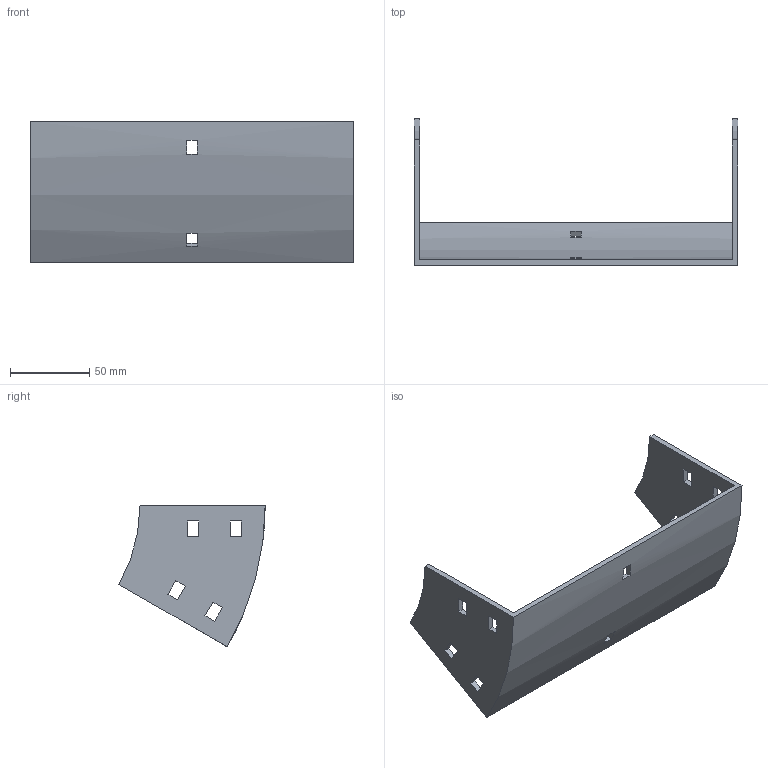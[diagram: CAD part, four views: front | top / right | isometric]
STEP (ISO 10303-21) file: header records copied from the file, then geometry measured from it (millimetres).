
FILE_DESCRIPTION (( 'STEP AP214' ), '1' );
FILE_NAME ('32B1C200.step', '2025-02-21T09:44:44', ( '' ), ( '' ), 'SwSTEP 2.0', 'SolidWorks 2023', '' );
FILE_SCHEMA (( 'AUTOMOTIVE_DESIGN' ));
Length unit declared in the file: millimetre
Products named in the file (1): 32B1C200
Bounding box: 204 x 92.4 x 89.5 mm (x, y, z)
Volume: 102011.9 mm3; surface area: 62320.5 mm2
Topology: 1 solids, 1 shells, 50 faces, 144 edges, 96 vertices
Faces by surface type: plane 46, cylinder 4
Entity records: 1687 total; most frequent: CARTESIAN_POINT 291, ORIENTED_EDGE 288, DIRECTION 262, EDGE_CURVE 144, LINE 128, VECTOR 128, VERTEX_POINT 96, EDGE_LOOP 70
